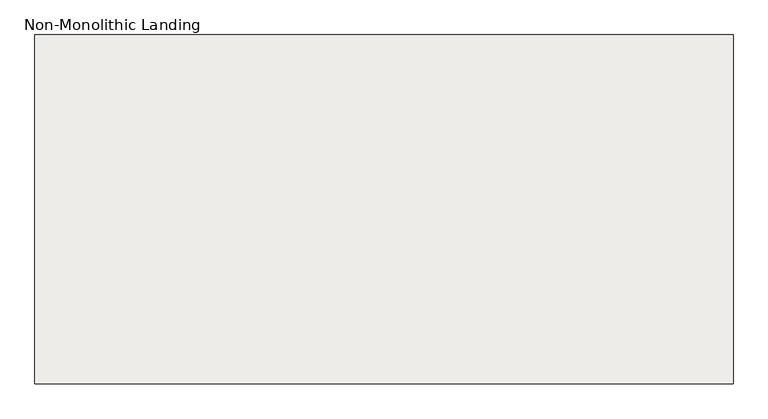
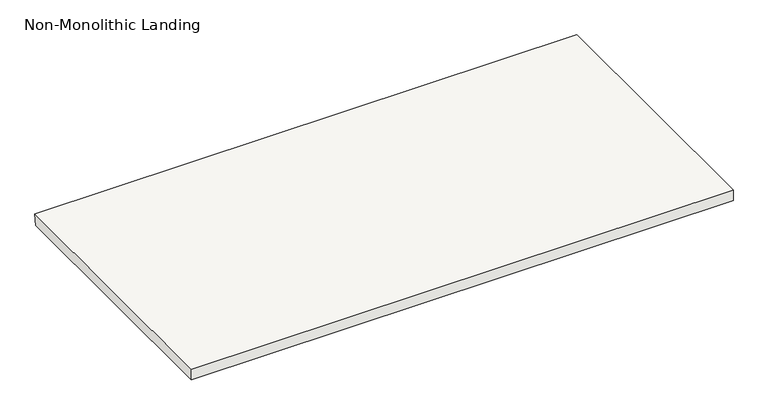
"""IFC4 building model written with IfcOpenShell, lengths in millimetres: slab geometry, Non-Monolithic Landing."""

from ifc_helpers import new_model, si_unit, frame, origin, place, context, project, spatial, polyline, outline, extrude, source, transform, mapped, element, save


def non_monolithic_landing_a57ce1cf(model_context):
    return source(origin(), model_context, "Body", "SweptSolid", [
        extrude(outline(polyline([(10205.6671333, 457.2), (11424.8671333, 457.2), (11416.6650335, 407.2), (10205.6671333, 407.2), (10205.6671333, 457.2)])), frame((-2631.2120003, 0.0, 0.0), z_axis=(1.0, 0.0, 0.0), x_axis=(0.0, 1.0, 0.0)), (0.0, 0.0, 1.0), 2438.4),
    ])


if __name__ == "__main__":
    model = new_model("IFC4")
    model_context = context("Model", 3, world=origin())
    ifc_project = project(units=[si_unit("LENGTHUNIT", "METRE", prefix="MILLI")], contexts=[model_context])
    site = spatial("IfcSite", under=ifc_project)
    building = spatial("IfcBuilding", under=site)
    placement = place(None, origin())
    non_monolithic_landing_shape = non_monolithic_landing_a57ce1cf(model_context)
    element("IfcSlab", 1, ObjectType="Non-Monolithic Landing", at=placement, inside=building, context=model_context, shape_type="MappedRepresentation", body=[
        mapped(non_monolithic_landing_shape, transform((0.0, 0.0, 0.0), x_axis=(1.0, 0.0, 0.0), y_axis=(0.0, 1.0, 0.0), z_axis=(0.0, 0.0, 1.0))),
    ])
    save(model, "model.ifc")
